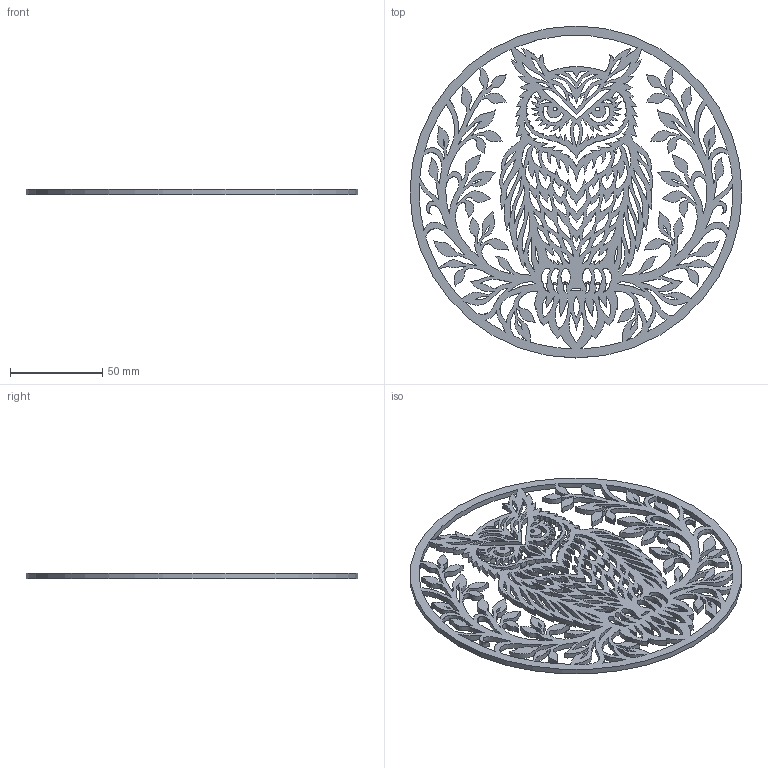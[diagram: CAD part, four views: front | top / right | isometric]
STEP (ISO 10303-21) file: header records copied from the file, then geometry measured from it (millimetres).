
FILE_DESCRIPTION(('STEP AP214'),'1');
FILE_NAME('owl-1.stp','2026-06-23T14:26:16',(' '),(' '),'Spatial InterOp 3D',' ',' ');
FILE_SCHEMA(('AUTOMOTIVE_DESIGN { 1 0 10303 214 1 1 1 1 }'));
Length unit declared in the file: millimetre
Products named in the file (1): 1782277327
Bounding box: 180 x 180 x 3 mm (x, y, z)
Volume: 40178.9 mm3; surface area: 51494.8 mm2
Topology: 1 solids, 1 shells, 693 faces, 2073 edges, 1382 vertices
Faces by surface type: extrusion 661, cylinder 28, plane 4
Full cylindrical faces by diameter (mm): 2.153 x2, 180 x1
Entity records: 39504 total; most frequent: CARTESIAN_POINT 17301, ORIENTED_EDGE 4140, EDGE_CURVE 2070, B_SPLINE_CURVE_WITH_KNOTS 1983, DIRECTION 1531, VERTEX_POINT 1382, VECTOR 1353, EDGE_LOOP 974
